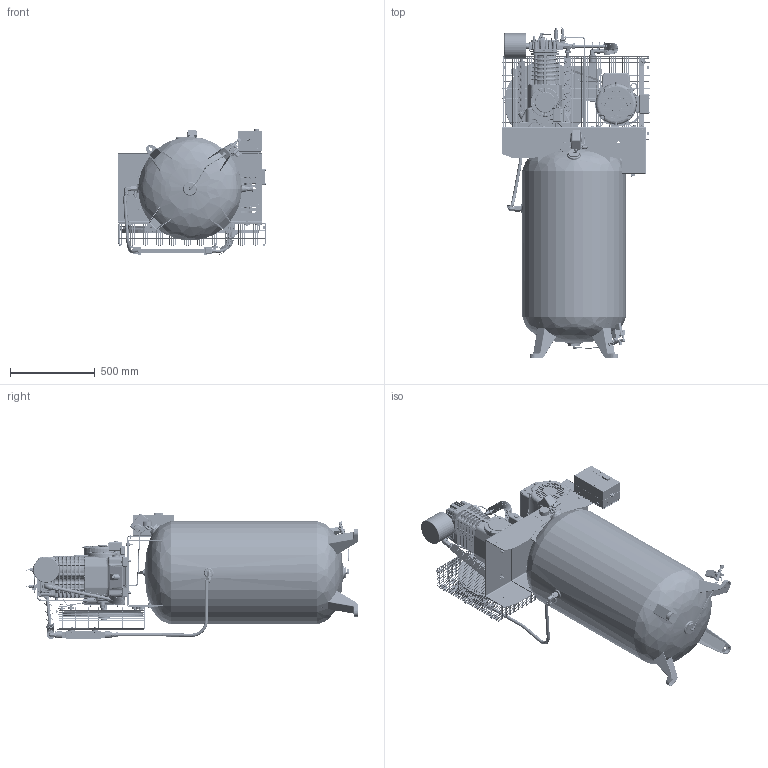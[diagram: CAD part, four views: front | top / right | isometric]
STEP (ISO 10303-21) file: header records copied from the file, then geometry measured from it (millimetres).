
FILE_DESCRIPTION(/* description */ ('Quincy 7.5hp Simplex Compressor - 80 Gallon Tank'),/* implementation_level */ '2;1');
FILE_NAME(/* name */ 'COMP-7.5Q.stp',/* time_stamp */ '2024-02-19T16:20:32-06:00',/* author */ ('atroll'),/* organization */ ('Engineered Corrosion Solutions'),/* preprocessor_version */ 'ST-DEVELOPER v19.2',/* originating_system */ 'Autodesk Inventor 2023',/* authorisation */ '');
FILE_SCHEMA (('AUTOMOTIVE_DESIGN { 1 0 10303 214 3 1 1 }'));
Length unit declared in the file: inch
Products named in the file (1): COMP-7.5Q
Bounding box: 877.39 x 1958.21 x 742.4 mm (x, y, z)
Volume: 73345985.1 mm3; surface area: 12775569.7 mm2
Topology: 176 solids, 180 shells, 19081 faces, 45421 edges, 26946 vertices
Faces by surface type: plane 6713, cylinder 5355, bspline 3624, cone 1359, torus 1253, sphere 777
Full cylindrical faces by diameter (mm): 1.7 x3, 2.032 x1, 2.4 x1, 2.54 x2, 2.642 x2, 2.8 x1, 3 x477, 3.6 x1, 3.7 x5, 3.734 x2, 3.81 x1, 3.962 x2, 4 x10, 4.1 x3, 4.2 x7, 4.28 x4, 4.3 x4, 4.4 x2, 4.496 x1, 4.65 x2, 4.724 x6, 4.75 x2, 4.76 x1, 4.775 x8, 4.826 x1, 4.978 x2, 5 x4, 5.105 x2, 5.41 x1, 5.588 x2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
Entity records: 718516 total; most frequent: CARTESIAN_POINT 280475, ORIENTED_EDGE 89788, DIRECTION 89032, EDGE_CURVE 44907, AXIS2_PLACEMENT_3D 35687, VERTEX_POINT 26944, EDGE_LOOP 20817, FACE_OUTER_BOUND 19079
